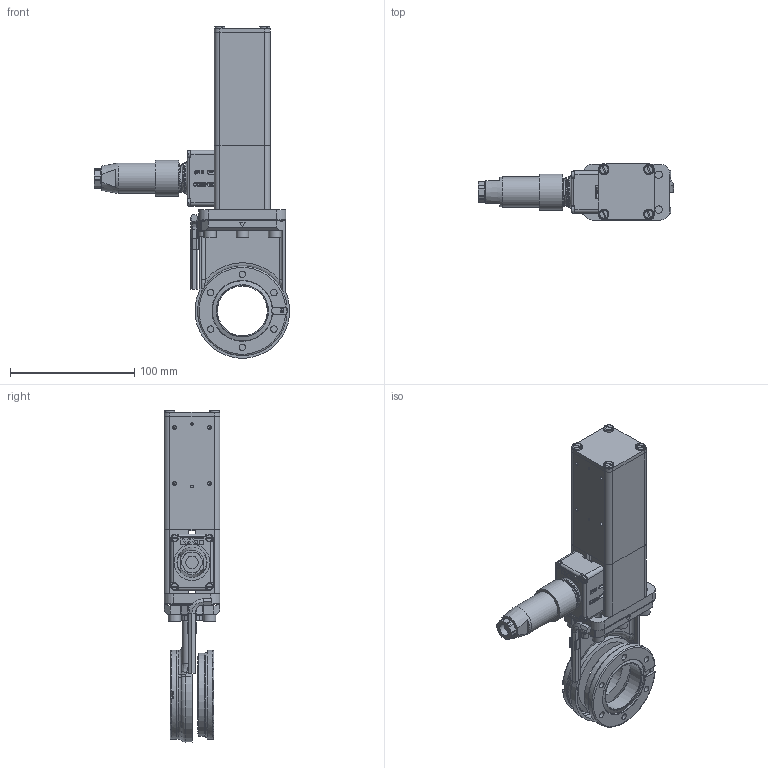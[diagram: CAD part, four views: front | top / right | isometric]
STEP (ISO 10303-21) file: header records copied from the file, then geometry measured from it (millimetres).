
FILE_DESCRIPTION( ( 'Unknown' ), '1' );
FILE_NAME( 'X:/Daten ( aktueller Bestand )/Projekte und Zeichnungen/Solid Edge/STP-Dateien/UHV Schieberventile CF/714224.stp', 'Unknown', ( 'Unknown' ), ( 'Unknown' ), 'PSStep 14.0', 'Unknown', ' ' );
FILE_SCHEMA( ( 'AUTOMOTIVE_DESIGN { 1 0 10303 214 1 1 1 1 }' ) );
Length unit declared in the file: millimetre
Products named in the file (36): 306200.2_NX-ARRAGMNTMassbild; 306242.3_NX-ARRAGMNTMassbild; 71852-r1; N-8406-006_1; 69672-01_2; N-6030-011; N-8406-551; N-8406-007; 82610-01; N-8210-239; 82555-01; 69428-r1; 527156_NX-ARRAGMNTMassbild; 70613-01.2_2; 66481-01.2_2; 252080.1_2; 252066.1_2; 66238-02.1; 66490-01.2; 526801; 69250-r1.8_NX-ARRAGMNTassembly; N-6016-078.1_2; n-8504-002_2; 69846-01; 63171-r1_NX-ARRAGMNTMassbild; 63172-01_6; 69852-01_6; 92410-01_0; Assem1; 65209-01.2_6; 73280-01_1.1_6; 69968-01.1_6; 228772.1_6
Assembly tree (57 placements, depth 5):
  Assem1
    65209-01.2_6
    73280-01_1.1_6
    69968-01.1_6
    228772.1_6  x6
    63171-r1_NX-ARRAGMNTMassbild
      63172-01_6
      69852-01_6
      92410-01_0  x2
      63171-r1_NX-ARRAGMNTMassbild
    527156_NX-ARRAGMNTMassbild
      70613-01.2_2
      66481-01.2_2
      252080.1_2
      252066.1_2  x4
      66238-02.1  x4
      66490-01.2
      526801
      306242.3_NX-ARRAGMNTMassbild
        306200.2_NX-ARRAGMNTMassbild
          306200.2_NX-ARRAGMNTMassbild
    69250-r1.8_NX-ARRAGMNTassembly
      N-6016-078.1_2  x4
      n-8504-002_2
      69846-01
      69428-r1
        69428-r1
      71852-r1
        N-8406-006_1
        69672-01_2
        N-6030-011  x4
        N-8406-551  x2
        N-8406-007
        82610-01
        N-8210-239  x4
        82555-01
Bounding box: 157.01 x 45 x 267.04 mm (x, y, z)
Volume: 271489.5 mm3; surface area: 158686.3 mm2
Topology: 50 solids, 50 shells, 1632 faces, 3954 edges, 2558 vertices
Faces by surface type: plane 921, cylinder 413, torus 100, cone 77, extrusion 73, bspline 35, sphere 12, revolution 1
Full cylindrical faces by diameter (mm): 0.5 x2, 1 x7, 1.2 x10, 1.5 x11, 1.6 x6, 1.95 x4, 2 x2, 2.2 x4, 2.25 x4, 2.3 x4, 2.5 x12, 2.7 x4, 2.856 x4, 3 x8, 3.3 x4, 3.4 x6, 3.485 x4, 3.9 x4, 4 x16, 4.15 x4, 4.65 x4, 5 x4, 5.2 x12, 5.4 x4, 5.6 x8, 5.95 x2, 6 x16, 6.2 x10, 6.95 x2, 8.1 x4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
Entity records: 56600 total; most frequent: CARTESIAN_POINT 12620, DIRECTION 6526, ORIENTED_EDGE 6234, EDGE_CURVE 3117, AXIS2_PLACEMENT_3D 2234, VERTEX_POINT 2191, VECTOR 2057, LINE 1986
